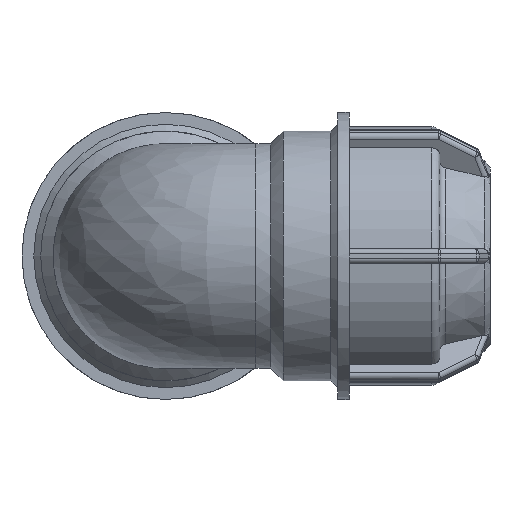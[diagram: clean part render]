
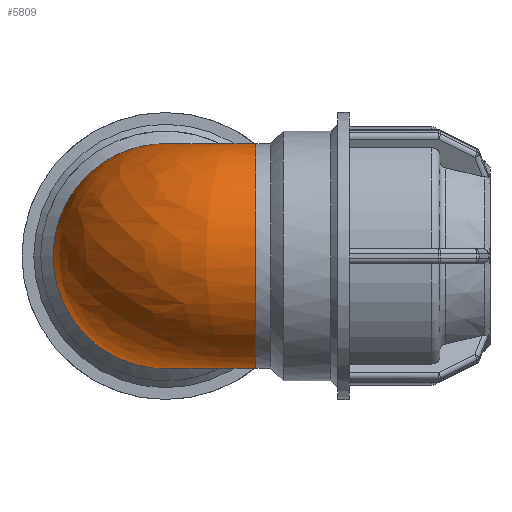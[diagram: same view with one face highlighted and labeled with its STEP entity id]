
A CAD part, front view. The second image highlights one B-rep face of the part: STEP entity #5809.
In plain terms, the highlighted free-form (B-spline) face has degree [2, 2] with [9, 3] control points.
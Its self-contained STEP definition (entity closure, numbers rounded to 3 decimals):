
#1374=FACE_OUTER_BOUND('',#1778,.T.);
#1778=EDGE_LOOP('',(#3990,#3991));
#2209=CIRCLE('',#6215,36.);
#2210=CIRCLE('',#6216,36.);
#2549=VERTEX_POINT('',#8843);
#2550=VERTEX_POINT('',#8844);
#3081=EDGE_CURVE('',#2549,#2550,#2209,.T.);
#3082=EDGE_CURVE('',#2550,#2549,#2210,.T.);
#3990=ORIENTED_EDGE('',*,*,#3081,.F.);
#3991=ORIENTED_EDGE('',*,*,#3082,.F.);
#5808=(
BOUNDED_SURFACE()
B_SPLINE_SURFACE(2,2,((#8816,#8817,#8818),(#8819,#8820,#8821),(#8822,#8823,
#8824),(#8825,#8826,#8827),(#8828,#8829,#8830),(#8831,#8832,#8833),(#8834,
#8835,#8836),(#8837,#8838,#8839),(#8840,#8841,#8842)),.UNSPECIFIED.,.F.,
 .F.,.F.)
B_SPLINE_SURFACE_WITH_KNOTS((3,2,2,2,3),(3,3),(-2.506,-1.253,
0.,1.253,2.506),(-3.142,-1.571),
 .UNSPECIFIED.)
GEOMETRIC_REPRESENTATION_ITEM()
RATIONAL_B_SPLINE_SURFACE(((1.,0.707,1.),(0.81,
0.573,0.81),(1.,0.707,1.),(0.81,
0.573,0.81),(1.,0.707,1.),(0.81,
0.573,0.81),(1.,0.707,1.),(0.81,
0.573,0.81),(1.,0.707,1.)))
REPRESENTATION_ITEM('')
SURFACE()
);
#5809=ADVANCED_FACE('',(#1374),#5808,.F.);
#6215=AXIS2_PLACEMENT_3D('',#8845,#6963,#6964);
#6216=AXIS2_PLACEMENT_3D('',#8846,#6965,#6966);
#6963=DIRECTION('center_axis',(1.,0.,0.));
#6964=DIRECTION('ref_axis',(0.,0.,-1.));
#6965=DIRECTION('center_axis',(0.,1.,0.));
#6966=DIRECTION('ref_axis',(0.,0.,-1.));
#8816=CARTESIAN_POINT('Ctrl Pts',(28.96,28.96,-21.385));
#8817=CARTESIAN_POINT('Ctrl Pts',(28.96,28.96,-21.385));
#8818=CARTESIAN_POINT('Ctrl Pts',(28.96,28.96,-21.385));
#8819=CARTESIAN_POINT('Ctrl Pts',(13.486,28.96,-42.34));
#8820=CARTESIAN_POINT('Ctrl Pts',(13.486,13.486,-42.34));
#8821=CARTESIAN_POINT('Ctrl Pts',(28.96,13.486,-42.34));
#8822=CARTESIAN_POINT('Ctrl Pts',(-11.257,28.96,-34.195));
#8823=CARTESIAN_POINT('Ctrl Pts',(-11.257,-11.257,-34.195));
#8824=CARTESIAN_POINT('Ctrl Pts',(28.96,-11.257,-34.195));
#8825=CARTESIAN_POINT('Ctrl Pts',(-36.,28.96,-26.049));
#8826=CARTESIAN_POINT('Ctrl Pts',(-36.,-36.,-26.049));
#8827=CARTESIAN_POINT('Ctrl Pts',(28.96,-36.,-26.049));
#8828=CARTESIAN_POINT('Ctrl Pts',(-36.,28.96,0.));
#8829=CARTESIAN_POINT('Ctrl Pts',(-36.,-36.,0.));
#8830=CARTESIAN_POINT('Ctrl Pts',(28.96,-36.,0.));
#8831=CARTESIAN_POINT('Ctrl Pts',(-36.,28.96,26.049));
#8832=CARTESIAN_POINT('Ctrl Pts',(-36.,-36.,26.049));
#8833=CARTESIAN_POINT('Ctrl Pts',(28.96,-36.,26.049));
#8834=CARTESIAN_POINT('Ctrl Pts',(-11.257,28.96,34.195));
#8835=CARTESIAN_POINT('Ctrl Pts',(-11.257,-11.257,34.195));
#8836=CARTESIAN_POINT('Ctrl Pts',(28.96,-11.257,34.195));
#8837=CARTESIAN_POINT('Ctrl Pts',(13.486,28.96,42.34));
#8838=CARTESIAN_POINT('Ctrl Pts',(13.486,13.486,42.34));
#8839=CARTESIAN_POINT('Ctrl Pts',(28.96,13.486,42.34));
#8840=CARTESIAN_POINT('Ctrl Pts',(28.96,28.96,21.385));
#8841=CARTESIAN_POINT('Ctrl Pts',(28.96,28.96,21.385));
#8842=CARTESIAN_POINT('Ctrl Pts',(28.96,28.96,21.385));
#8843=CARTESIAN_POINT('',(28.96,28.96,21.385));
#8844=CARTESIAN_POINT('',(28.96,28.96,-21.385));
#8845=CARTESIAN_POINT('Origin',(28.96,0.,0.));
#8846=CARTESIAN_POINT('Origin',(0.,28.96,0.));
